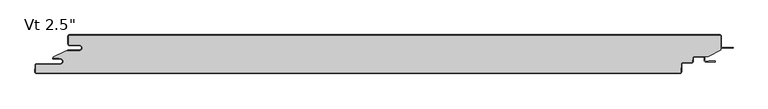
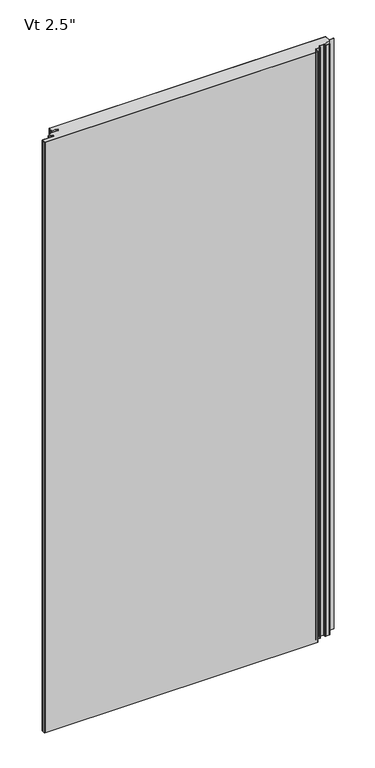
"""IFC4 building model written with IfcOpenShell, lengths in millimetres: plate geometry."""

from ifc_helpers import new_model, si_unit, point, frame, frame_2d, origin, origin_with_axes, place, context, project, spatial, polyline, circle_curve, ellipse_curve, trimmed, segment, composite_curve, outline, extrude, source, transform, mapped, element, save
from ifc_brep_helpers import plane_surface, cylinder_surface, revolved_surface, extruded_surface, advanced_brep


def plate_e125ebaa(model_context):
    return source(origin(), model_context, "Body", "SolidModel", [
        extrude(outline(composite_curve([segment(polyline([(-514.3437502, -16.4625), (-530.2187502, -16.4625)]), True, "CONTINUOUS"), segment(trimmed(circle_curve(frame_2d((-530.2187502, -15.08125)), 1.38125), [point((-530.2187502, -16.4625))], [point((-531.6000002, -15.08125))], False, "CARTESIAN"), True, "CONTINUOUS"), segment(polyline([(-531.6000002, -15.08125), (-531.6000002, -2.38125)]), True, "CONTINUOUS"), segment(trimmed(circle_curve(frame_2d((-530.2187502, -2.38125)), 1.38125), [point((-531.6000002, -2.38125))], [point((-530.2187502, -1.0))], False, "CARTESIAN"), True, "CONTINUOUS"), segment(polyline([(-530.2187502, -1.0), (530.2312498, -1.0)]), True, "CONTINUOUS"), segment(trimmed(circle_curve(frame_2d((530.2312498, -2.38125)), 1.38125), [point((530.2312498, -1.0))], [point((531.6124998, -2.38125))], False, "CARTESIAN"), True, "CONTINUOUS"), segment(polyline([(531.6124998, -2.38125), (531.6124998, -24.9057308), (510.7955432, -35.5125), (488.3540781, -35.5125)]), True, "CONTINUOUS"), segment(trimmed(circle_curve(frame_2d((488.3540781, -38.1)), 2.5875), [point((488.3540781, -35.5125))], [point((485.7701242, -37.9645807))], True, "CARTESIAN"), True, "CONTINUOUS"), segment(polyline([(485.7701242, -37.9645807), (485.4680479, -43.728539)]), True, "CONTINUOUS"), segment(trimmed(circle_curve(frame_2d((484.0886909, -43.65625)), 1.38125), [point((485.4680479, -43.728539))], [point((484.0886909, -45.0375))], False, "CARTESIAN"), True, "CONTINUOUS"), segment(polyline([(484.0886909, -45.0375), (469.9323845, -45.0375)]), True, "CONTINUOUS"), segment(trimmed(circle_curve(frame_2d((469.9323845, -47.625)), 2.5875), [point((469.9323845, -45.0375))], [point((467.3484306, -47.4895807))], True, "CARTESIAN"), True, "CONTINUOUS"), segment(polyline([(467.3484306, -47.4895807), (466.6303676, -61.191039)]), True, "CONTINUOUS"), segment(trimmed(circle_curve(frame_2d((465.2510105, -61.11875)), 1.38125), [point((466.6303676, -61.191039))], [point((465.2510105, -62.5))], False, "CARTESIAN"), True, "CONTINUOUS"), segment(polyline([(465.2510105, -62.5), (-584.0799537, -62.5)]), True, "CONTINUOUS"), segment(trimmed(circle_curve(frame_2d((-584.0799537, -61.11875)), 1.38125), [point((-584.0799537, -62.5))], [point((-585.4593107, -61.046461))], False, "CARTESIAN"), True, "CONTINUOUS"), segment(polyline([(-585.4593107, -61.046461), (-584.8769293, -49.933961)]), True, "CONTINUOUS"), segment(trimmed(circle_curve(frame_2d((-583.4975722, -50.00625)), 1.38125), [point((-584.8769293, -49.933961))], [point((-583.4975722, -48.625))], False, "CARTESIAN"), True, "CONTINUOUS"), segment(polyline([(-583.4975722, -48.625), (-545.3142676, -48.625)]), True, "CONTINUOUS"), segment(trimmed(circle_curve(frame_2d((-545.3142676, -43.65625)), 4.96875), [point((-545.3142676, -48.625))], [point((-545.3142676, -38.6875))], True, "CARTESIAN"), True, "CONTINUOUS"), segment(polyline([(-545.3142676, -38.6875), (-546.9017676, -38.89375), (-546.9017676, -38.1), (-556.4125002, -38.1), (-556.4125002, -36.5326309), (-536.5260924, -26.4), (-514.3437502, -26.4)]), True, "CONTINUOUS"), segment(trimmed(circle_curve(frame_2d((-514.3437502, -21.43125)), 4.96875), [point((-514.3437502, -26.4))], [point((-514.3437502, -16.4625))], True, "CARTESIAN"), True, "CONTINUOUS")], self_intersect=False)), origin_with_axes(), (0.0, 0.0, 1.0), 2400.0),
        extrude(outline(composite_curve([segment(polyline([(-532.6000002, -25.4), (-514.3437502, -25.4)]), True, "CONTINUOUS"), segment(trimmed(circle_curve(frame_2d((-514.3437502, -21.43125)), 3.96875), [point((-514.3437502, -25.4))], [point((-514.3437502, -17.4625))], True, "CARTESIAN"), True, "CONTINUOUS"), segment(polyline([(-514.3437502, -17.4625), (-530.2187502, -17.4625)]), True, "CONTINUOUS"), segment(trimmed(circle_curve(frame_2d((-530.2187502, -15.08125)), 2.38125), [point((-530.2187502, -17.4625))], [point((-532.6000002, -15.08125))], False, "CARTESIAN"), True, "CONTINUOUS"), segment(polyline([(-532.6000002, -15.08125), (-532.6000002, -2.38125)]), True, "CONTINUOUS"), segment(trimmed(circle_curve(frame_2d((-530.2187502, -2.38125)), 2.38125), [point((-532.6000002, -2.38125))], [point((-530.2187502, 0.0))], False, "CARTESIAN"), True, "CONTINUOUS"), segment(polyline([(-530.2187502, 0.0), (530.2312498, 0.0)]), True, "CONTINUOUS"), segment(trimmed(circle_curve(frame_2d((530.2312498, -2.38125)), 2.38125), [point((530.2312498, 0.0))], [point((532.6124998, -2.38125))], False, "CARTESIAN"), True, "CONTINUOUS"), segment(polyline([(532.6124998, -2.38125), (532.6124998, -19.446875)]), True, "CONTINUOUS"), segment(trimmed(circle_curve(frame_2d((534.1999998, -19.446875)), 1.5875), [point((532.6124998, -19.446875))], [point((534.1999998, -21.034375))], True, "CARTESIAN"), True, "CONTINUOUS"), segment(polyline([(534.1999998, -21.034375), (551.6624998, -21.034375), (551.6624998, -22.034375), (534.1999998, -22.034375)]), True, "CONTINUOUS"), segment(trimmed(circle_curve(frame_2d((534.1999998, -19.446875)), 2.5875), [point((534.1999998, -22.034375))], [point((531.6124998, -19.446875))], False, "CARTESIAN"), True, "CONTINUOUS"), segment(polyline([(531.6124998, -19.446875), (531.6124998, -2.38125)]), True, "CONTINUOUS"), segment(trimmed(circle_curve(frame_2d((530.2312498, -2.38125)), 1.38125), [point((531.6124998, -2.38125))], [point((530.2312498, -1.0))], True, "CARTESIAN"), True, "CONTINUOUS"), segment(polyline([(530.2312498, -1.0), (-530.2187502, -1.0)]), True, "CONTINUOUS"), segment(trimmed(circle_curve(frame_2d((-530.2187502, -2.38125)), 1.38125), [point((-530.2187502, -1.0))], [point((-531.6000002, -2.38125))], True, "CARTESIAN"), True, "CONTINUOUS"), segment(polyline([(-531.6000002, -2.38125), (-531.6000002, -15.08125)]), True, "CONTINUOUS"), segment(trimmed(circle_curve(frame_2d((-530.2187502, -15.08125)), 1.38125), [point((-531.6000002, -15.08125))], [point((-530.2187502, -16.4625))], True, "CARTESIAN"), True, "CONTINUOUS"), segment(polyline([(-530.2187502, -16.4625), (-514.3437502, -16.4625)]), True, "CONTINUOUS"), segment(trimmed(circle_curve(frame_2d((-514.3437502, -21.43125)), 4.96875), [point((-514.3437502, -16.4625))], [point((-514.3437502, -26.4))], False, "CARTESIAN"), True, "CONTINUOUS"), segment(polyline([(-514.3437502, -26.4), (-532.6000002, -26.4), (-532.6000002, -25.4)]), True, "CONTINUOUS")], self_intersect=False)), origin_with_axes(), (0.0, 0.0, 1.0), 2400.0),
        advanced_brep(
        [(-556.6252051, -38.1, 2400.0), (-556.6252051, -39.6875, 2400.0), (-545.3142676, -39.6875, 2400.0), (-545.3142676, -47.625, 2400.0), (-583.4975722, -47.625, 2400.0), (-585.8755588, -49.881625, 2400.0), (-586.4579402, -60.994125, 2400.0), (-584.0799537, -63.5, 2400.0), (465.2510105, -63.5, 2400.0), (467.6289971, -61.243375, 2400.0), (468.3470601, -47.5419167, 2400.0), (469.9323845, -46.0375, 2400.0), (484.0886909, -46.0375, 2400.0), (486.4666775, -43.780875, 2400.0), (486.7687537, -38.0169167, 2400.0), (488.3540781, -36.5125, 2400.0), (503.2294824, -36.5125, 2400.0), (504.8169824, -38.1, 2400.0), (504.8169824, -42.2671875, 2400.0), (507.1982324, -44.6484375, 2400.0), (521.689853, -44.6484375, 2400.0), (521.689853, -42.8546875, 2400.0), (511.9607324, -42.8546875, 2400.0), (511.9607324, -43.6484375, 2400.0), (507.1982324, -43.6484375, 2400.0), (505.8169824, -42.2671875, 2400.0), (505.8169824, -38.1, 2400.0), (503.2294824, -35.5125, 2400.0), (488.3540781, -35.5125, 2400.0), (485.7701242, -37.9645807, 2400.0), (485.4680479, -43.728539, 2400.0), (484.0886909, -45.0375, 2400.0), (469.9323845, -45.0375, 2400.0), (467.3484306, -47.4895807, 2400.0), (466.6303676, -61.191039, 2400.0), (465.2510105, -62.5, 2400.0), (-584.0799537, -62.5, 2400.0), (-585.4593107, -61.046461, 2400.0), (-584.8769293, -49.933961, 2400.0), (-583.4975722, -48.625, 2400.0), (-545.3142676, -48.625, 2400.0), (-545.3142676, -38.6875, 2400.0), (-546.9017676, -38.89375, 2400.0), (-546.9017676, -38.1, 2400.0), (-556.6252051, -38.1, 0.0), (-546.9017676, -38.1, 0.0), (-546.9017676, -38.89375, 0.0), (-545.3142676, -38.6875, 0.0), (-545.3142676, -48.625, 0.0), (-583.4975722, -48.625, 0.0), (-584.8769293, -49.933961, 0.0), (-585.4593107, -61.046461, 0.0), (-584.0799537, -62.5, 0.0), (465.2510105, -62.5, 0.0), (466.6303676, -61.191039, 0.0), (467.3484306, -47.4895807, 0.0), (469.9323845, -45.0375, 0.0), (484.0886909, -45.0375, 0.0), (485.4680479, -43.728539, 0.0), (485.7701242, -37.9645807, 0.0), (488.3540781, -35.5125, 0.0), (503.2294824, -35.5125, 0.0), (505.8169824, -38.1, 0.0), (505.8169824, -42.2671875, 0.0), (507.1982324, -43.6484375, 0.0), (511.9607324, -43.6484375, 0.0), (511.9607324, -42.8546875, 0.0), (521.689853, -42.8546875, 0.0), (521.689853, -44.6484375, 0.0), (507.1982324, -44.6484375, 0.0), (504.8169824, -42.2671875, 0.0), (504.8169824, -38.1, 0.0), (503.2294824, -36.5125, 0.0), (488.3540781, -36.5125, 0.0), (486.7687537, -38.0169167, 0.0), (486.4666775, -43.780875, 0.0), (484.0886909, -46.0375, 0.0), (469.9323845, -46.0375, 0.0), (468.3470601, -47.5419167, 0.0), (467.6289971, -61.243375, 0.0), (465.2510105, -63.5, 0.0), (-584.0799537, -63.5, 0.0), (-586.4579402, -60.994125, 0.0), (-585.8755588, -49.881625, 0.0), (-583.4975722, -47.625, 0.0), (-545.3142676, -47.625, 0.0), (-545.3142676, -39.6875, 0.0), (-556.6252051, -39.6875, 0.0)],
        [
            (0, 1, circle_curve(frame((-556.6252051, -38.89375, 2400.0), z_axis=(0.0, 0.0, 1.0), x_axis=(-1.0, 0.0, 0.0)), 0.79375)),
            (1, 2),
            (2, 3, circle_curve(frame((-545.3142676, -43.65625, 2400.0), z_axis=(0.0, 0.0, -1.0), x_axis=(-1.0, 0.0, 0.0)), 3.96875)),
            (3, 4),
            (4, 5, circle_curve(frame((-583.4975722, -50.00625, 2400.0), z_axis=(0.0, 0.0, 1.0), x_axis=(-1.0, 0.0, 0.0)), 2.38125)),
            (5, 6),
            (6, 7, circle_curve(frame((-584.0799537, -61.11875, 2400.0), z_axis=(0.0, 0.0, 1.0), x_axis=(-1.0, 0.0, 0.0)), 2.38125)),
            (7, 8),
            (8, 9, circle_curve(frame((465.2510105, -61.11875, 2400.0), z_axis=(0.0, 0.0, 1.0), x_axis=(-1.0, 0.0, 0.0)), 2.38125)),
            (9, 10),
            (10, 11, circle_curve(frame((469.9323845, -47.625, 2400.0), z_axis=(0.0, 0.0, -1.0), x_axis=(-1.0, 0.0, 0.0)), 1.5875)),
            (11, 12),
            (12, 13, circle_curve(frame((484.0886909, -43.65625, 2400.0), z_axis=(0.0, 0.0, 1.0), x_axis=(-1.0, 0.0, 0.0)), 2.38125)),
            (13, 14),
            (14, 15, circle_curve(frame((488.3540781, -38.1, 2400.0), z_axis=(0.0, 0.0, -1.0), x_axis=(-1.0, 0.0, 0.0)), 1.5875)),
            (15, 16),
            (16, 17, circle_curve(frame((503.2294824, -38.1, 2400.0), z_axis=(0.0, 0.0, -1.0), x_axis=(-1.0, 0.0, 0.0)), 1.5875)),
            (17, 18),
            (18, 19, circle_curve(frame((507.1982324, -42.2671875, 2400.0), z_axis=(0.0, 0.0, 1.0), x_axis=(-1.0, 0.0, 0.0)), 2.38125)),
            (19, 20),
            (20, 21, ellipse_curve(frame((521.689853, -43.7515625, 2400.0), z_axis=(0.0, 0.0, 1.0), x_axis=(0.0, 1.0, 0.0)), 0.896875, 0.7852275)),
            (21, 22),
            (22, 23),
            (23, 24),
            (24, 25, circle_curve(frame((507.1982324, -42.2671875, 2400.0), z_axis=(0.0, 0.0, -1.0), x_axis=(-1.0, 0.0, 0.0)), 1.38125)),
            (25, 26),
            (26, 27, circle_curve(frame((503.2294824, -38.1, 2400.0), z_axis=(0.0, 0.0, 1.0), x_axis=(-1.0, 0.0, 0.0)), 2.5875)),
            (27, 28),
            (28, 29, circle_curve(frame((488.3540781, -38.1, 2400.0), z_axis=(0.0, 0.0, 1.0), x_axis=(-1.0, 0.0, 0.0)), 2.5875)),
            (29, 30),
            (30, 31, circle_curve(frame((484.0886909, -43.65625, 2400.0), z_axis=(0.0, 0.0, -1.0), x_axis=(-1.0, 0.0, 0.0)), 1.38125)),
            (31, 32),
            (32, 33, circle_curve(frame((469.9323845, -47.625, 2400.0), z_axis=(0.0, 0.0, 1.0), x_axis=(-1.0, 0.0, 0.0)), 2.5875)),
            (33, 34),
            (34, 35, circle_curve(frame((465.2510105, -61.11875, 2400.0), z_axis=(0.0, 0.0, -1.0), x_axis=(-1.0, 0.0, 0.0)), 1.38125)),
            (35, 36),
            (36, 37, circle_curve(frame((-584.0799537, -61.11875, 2400.0), z_axis=(0.0, 0.0, -1.0), x_axis=(-1.0, 0.0, 0.0)), 1.38125)),
            (37, 38),
            (38, 39, circle_curve(frame((-583.4975722, -50.00625, 2400.0), z_axis=(0.0, 0.0, -1.0), x_axis=(-1.0, 0.0, 0.0)), 1.38125)),
            (39, 40),
            (40, 41, circle_curve(frame((-545.3142676, -43.65625, 2400.0), z_axis=(0.0, 0.0, 1.0), x_axis=(-1.0, 0.0, 0.0)), 4.96875)),
            (41, 42),
            (42, 43),
            (43, 0),
            (44, 45),
            (45, 46),
            (46, 47),
            (47, 48, circle_curve(frame((-545.3142676, -43.65625, 0.0), z_axis=(0.0, 0.0, -1.0), x_axis=(-1.0, 0.0, 0.0)), 4.96875)),
            (48, 49),
            (49, 50, circle_curve(frame((-583.4975722, -50.00625, 0.0), z_axis=(0.0, 0.0, 1.0), x_axis=(-1.0, 0.0, 0.0)), 1.38125)),
            (50, 51),
            (51, 52, circle_curve(frame((-584.0799537, -61.11875, 0.0), z_axis=(0.0, 0.0, 1.0), x_axis=(-1.0, 0.0, 0.0)), 1.38125)),
            (52, 53),
            (53, 54, circle_curve(frame((465.2510105, -61.11875, 0.0), z_axis=(0.0, 0.0, 1.0), x_axis=(-1.0, 0.0, 0.0)), 1.38125)),
            (54, 55),
            (55, 56, circle_curve(frame((469.9323845, -47.625, 0.0), z_axis=(0.0, 0.0, -1.0), x_axis=(-1.0, 0.0, 0.0)), 2.5875)),
            (56, 57),
            (57, 58, circle_curve(frame((484.0886909, -43.65625, 0.0), z_axis=(0.0, 0.0, 1.0), x_axis=(-1.0, 0.0, 0.0)), 1.38125)),
            (58, 59),
            (59, 60, circle_curve(frame((488.3540781, -38.1, 0.0), z_axis=(0.0, 0.0, -1.0), x_axis=(-1.0, 0.0, 0.0)), 2.5875)),
            (60, 61),
            (61, 62, circle_curve(frame((503.2294824, -38.1, 0.0), z_axis=(0.0, 0.0, -1.0), x_axis=(-1.0, 0.0, 0.0)), 2.5875)),
            (62, 63),
            (63, 64, circle_curve(frame((507.1982324, -42.2671875, 0.0), z_axis=(0.0, 0.0, 1.0), x_axis=(-1.0, 0.0, 0.0)), 1.38125)),
            (64, 65),
            (65, 66),
            (66, 67),
            (67, 68, ellipse_curve(frame((521.689853, -43.7515625, 0.0), z_axis=(0.0, 0.0, -1.0), x_axis=(0.0, 1.0, 0.0)), 0.896875, 0.7852275)),
            (68, 69),
            (69, 70, circle_curve(frame((507.1982324, -42.2671875, 0.0), z_axis=(0.0, 0.0, -1.0), x_axis=(-1.0, 0.0, 0.0)), 2.38125)),
            (70, 71),
            (71, 72, circle_curve(frame((503.2294824, -38.1, 0.0), z_axis=(0.0, 0.0, 1.0), x_axis=(-1.0, 0.0, 0.0)), 1.5875)),
            (72, 73),
            (73, 74, circle_curve(frame((488.3540781, -38.1, 0.0), z_axis=(0.0, 0.0, 1.0), x_axis=(-1.0, 0.0, 0.0)), 1.5875)),
            (74, 75),
            (75, 76, circle_curve(frame((484.0886909, -43.65625, 0.0), z_axis=(0.0, 0.0, -1.0), x_axis=(-1.0, 0.0, 0.0)), 2.38125)),
            (76, 77),
            (77, 78, circle_curve(frame((469.9323845, -47.625, 0.0), z_axis=(0.0, 0.0, 1.0), x_axis=(-1.0, 0.0, 0.0)), 1.5875)),
            (78, 79),
            (79, 80, circle_curve(frame((465.2510105, -61.11875, 0.0), z_axis=(0.0, 0.0, -1.0), x_axis=(-1.0, 0.0, 0.0)), 2.38125)),
            (80, 81),
            (81, 82, circle_curve(frame((-584.0799537, -61.11875, 0.0), z_axis=(0.0, 0.0, -1.0), x_axis=(-1.0, 0.0, 0.0)), 2.38125)),
            (82, 83),
            (83, 84, circle_curve(frame((-583.4975722, -50.00625, 0.0), z_axis=(0.0, 0.0, -1.0), x_axis=(-1.0, 0.0, 0.0)), 2.38125)),
            (84, 85),
            (85, 86, circle_curve(frame((-545.3142676, -43.65625, 0.0), z_axis=(0.0, 0.0, 1.0), x_axis=(-1.0, 0.0, 0.0)), 3.96875)),
            (86, 87),
            (87, 44, circle_curve(frame((-556.6252051, -38.89375, 0.0), z_axis=(0.0, 0.0, -1.0), x_axis=(-1.0, 0.0, 0.0)), 0.79375)),
            (43, 45),
            (44, 0),
            (87, 1),
            (86, 2),
            (85, 3),
            (84, 4),
            (83, 5),
            (82, 6),
            (81, 7),
            (80, 8),
            (79, 9),
            (78, 10),
            (77, 11),
            (76, 12),
            (75, 13),
            (74, 14),
            (73, 15),
            (38, 50),
            (49, 39),
            (37, 51),
            (36, 52),
            (35, 53),
            (34, 54),
            (33, 55),
            (32, 56),
            (31, 57),
            (30, 58),
            (29, 59),
            (28, 60),
            (23, 65),
            (64, 24),
            (63, 25),
            (62, 26),
            (72, 16),
            (71, 17),
            (70, 18),
            (69, 19),
            (68, 20),
            (27, 61),
            (48, 40),
            (47, 41),
            (42, 46),
            (22, 66),
            (21, 67),
        ],
        [
            plane_surface(frame((0.0062498, -63.5, 2400.0), z_axis=(0.0, 0.0, 1.0), x_axis=(0.0, -1.0, 0.0))),
            plane_surface(frame((0.0062498, -63.5, 0.0), z_axis=(0.0, 0.0, -1.0), x_axis=(0.0, -1.0, 0.0))),
            plane_surface(frame((-556.6252051, -38.1, 2400.0), z_axis=(0.0, 1.0, 0.0), x_axis=(0.0, 0.0, -1.0))),
            cylinder_surface(frame((-556.6252051, -38.89375, 2400.0), z_axis=(0.0, 0.0, 1.0), x_axis=(-1.0, 0.0, 0.0)), 0.79375),
            plane_surface(frame((-545.3142676, -39.6875, 2400.0), z_axis=(0.0, -1.0, 0.0), x_axis=(0.0, 0.0, -1.0))),
            revolved_surface(polyline([(-549.2830176, -43.65625, 0.0), (-549.2830176, -43.65625, 2400.0)]), (-545.3142676, -43.65625, 2400.0), (0.0, 0.0, -1.0)),
            plane_surface(frame((-583.4975722, -47.625, 2400.0), z_axis=(0.0, 1.0, 0.0), x_axis=(0.0, 0.0, -1.0))),
            cylinder_surface(frame((-583.4975722, -50.00625, 2400.0), z_axis=(0.0, 0.0, 1.0), x_axis=(-1.0, 0.0, 0.0)), 2.38125),
            plane_surface(frame((-586.4579402, -60.994125, 2400.0), z_axis=(-0.9986295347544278, 0.052335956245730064, 0.0), x_axis=(0.0, 0.0, -1.0))),
            cylinder_surface(frame((-584.0799537, -61.11875, 2400.0), z_axis=(0.0, 0.0, 1.0), x_axis=(-1.0, 0.0, 0.0)), 2.38125),
            plane_surface(frame((465.2510105, -63.5, 2400.0), z_axis=(0.0, -1.0, 0.0), x_axis=(0.0, 0.0, -1.0))),
            cylinder_surface(frame((465.2510105, -61.11875, 2400.0), z_axis=(0.0, 0.0, 1.0), x_axis=(-1.0, 0.0, 0.0)), 2.38125),
            plane_surface(frame((468.3470601, -47.5419167, 2400.0), z_axis=(0.9986295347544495, -0.05233595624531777, 0.0), x_axis=(0.0, 0.0, -1.0))),
            revolved_surface(polyline([(468.34488450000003, -47.625, 0.0), (468.34488450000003, -47.625, 2400.0)]), (469.9323845, -47.625, 2400.0), (0.0, 0.0, -1.0)),
            plane_surface(frame((484.0886909, -46.0375, 2400.0), z_axis=(0.0, -1.0, 0.0), x_axis=(0.0, 0.0, -1.0))),
            cylinder_surface(frame((484.0886909, -43.65625, 2400.0), z_axis=(0.0, 0.0, 1.0), x_axis=(-1.0, 0.0, 0.0)), 2.38125),
            plane_surface(frame((486.7687537, -38.0169167, 2400.0), z_axis=(0.9986295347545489, -0.05233595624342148, 0.0), x_axis=(0.0, 0.0, -1.0))),
            revolved_surface(polyline([(486.7665781, -38.1, 0.0), (486.7665781, -38.1, 2400.0)]), (488.3540781, -38.1, 2400.0), (0.0, 0.0, -1.0)),
            revolved_surface(polyline([(-584.8788222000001, -50.00625, 0.0), (-584.8788222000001, -50.00625, 2400.0)]), (-583.4975722, -50.00625, 2400.0), (0.0, 0.0, -1.0)),
            plane_surface(frame((-584.8769293, -49.933961, 2400.0), z_axis=(0.9986295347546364, -0.05233595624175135, 0.0), x_axis=(0.0, 0.0, -1.0))),
            revolved_surface(polyline([(-585.4612037, -61.11875, 0.0), (-585.4612037, -61.11875, 2400.0)]), (-584.0799537, -61.11875, 2400.0), (0.0, 0.0, -1.0)),
            plane_surface(frame((-584.0799537, -62.5, 2400.0), z_axis=(0.0, 1.0, 0.0), x_axis=(0.0, 0.0, -1.0))),
            revolved_surface(polyline([(463.8697605, -61.11875, 0.0), (463.8697605, -61.11875, 2400.0)]), (465.2510105, -61.11875, 2400.0), (0.0, 0.0, -1.0)),
            plane_surface(frame((466.6303676, -61.191039, 2400.0), z_axis=(-0.9986295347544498, 0.05233595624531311, 0.0), x_axis=(0.0, 0.0, -1.0))),
            cylinder_surface(frame((469.9323845, -47.625, 2400.0), z_axis=(0.0, 0.0, 1.0), x_axis=(-1.0, 0.0, 0.0)), 2.5875),
            plane_surface(frame((469.9323845, -45.0375, 2400.0), z_axis=(0.0, 1.0, 0.0), x_axis=(0.0, 0.0, -1.0))),
            revolved_surface(polyline([(482.7074409, -43.65625, 0.0), (482.7074409, -43.65625, 2400.0)]), (484.0886909, -43.65625, 2400.0), (0.0, 0.0, -1.0)),
            plane_surface(frame((485.4680479, -43.728539, 2400.0), z_axis=(-0.9986295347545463, 0.05233595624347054, 0.0), x_axis=(0.0, 0.0, -1.0))),
            cylinder_surface(frame((488.3540781, -38.1, 2400.0), z_axis=(0.0, 0.0, 1.0), x_axis=(-1.0, 0.0, 0.0)), 2.5875),
            plane_surface(frame((507.1982324, -43.6484375, 2400.0), z_axis=(0.0, 1.0, 0.0), x_axis=(0.0, 0.0, -1.0))),
            revolved_surface(polyline([(505.8169824, -42.2671875, 0.0), (505.8169824, -42.2671875, 2400.0)]), (507.1982324, -42.2671875, 2400.0), (0.0, 0.0, -1.0)),
            plane_surface(frame((505.8169824, -38.1, 2400.0), z_axis=(1.0, 0.0, 0.0), x_axis=(0.0, 0.0, -1.0))),
            plane_surface(frame((503.2294824, -36.5125, 2400.0), z_axis=(0.0, -1.0, 0.0), x_axis=(0.0, 0.0, -1.0))),
            revolved_surface(polyline([(501.6419824, -38.1, 0.0), (501.6419824, -38.1, 2400.0)]), (503.2294824, -38.1, 2400.0), (0.0, 0.0, -1.0)),
            plane_surface(frame((504.8169824, -42.2671875, 2400.0), z_axis=(-1.0, 0.0, 0.0), x_axis=(0.0, 0.0, -1.0))),
            cylinder_surface(frame((507.1982324, -42.2671875, 2400.0), z_axis=(0.0, 0.0, 1.0), x_axis=(-1.0, 0.0, 0.0)), 2.38125),
            plane_surface(frame((521.689853, -44.6484375, 2400.0), z_axis=(0.0, -1.0, 0.0), x_axis=(0.0, 0.0, -1.0))),
            plane_surface(frame((488.3540781, -35.5125, 2400.0), z_axis=(0.0, 1.0, 0.0), x_axis=(0.0, 0.0, -1.0))),
            cylinder_surface(frame((503.2294824, -38.1, 2400.0), z_axis=(0.0, 0.0, 1.0), x_axis=(-1.0, 0.0, 0.0)), 2.5875),
            plane_surface(frame((-545.3142676, -48.625, 2400.0), z_axis=(0.0, -1.0, 0.0), x_axis=(0.0, 0.0, -1.0))),
            cylinder_surface(frame((-545.3142676, -43.65625, 2400.0), z_axis=(0.0, 0.0, 1.0), x_axis=(-1.0, 0.0, 0.0)), 4.96875),
            plane_surface(frame((-546.9017676, -38.1, 2400.0), z_axis=(1.0, 0.0, 0.0), x_axis=(0.0, 0.0, -1.0))),
            plane_surface(frame((-546.9017676, -38.89375, 2400.0), z_axis=(-0.128838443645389, 0.9916655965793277, 0.0), x_axis=(0.0, 0.0, -1.0))),
            plane_surface(frame((511.9607324, -43.6484375, 2400.0), z_axis=(-1.0, 0.0, 0.0), x_axis=(0.0, 0.0, -1.0))),
            plane_surface(frame((511.9607324, -42.8546875, 2400.0), z_axis=(0.0, 1.0, 0.0), x_axis=(0.0, 0.0, -1.0))),
            extruded_surface(trimmed(ellipse_curve(frame((521.689853, -43.7515625, 2400.0), z_axis=(0.0, 0.0, -1.0), x_axis=(0.0, 1.0, 0.0)), 0.896875, 0.7852275), [point((521.689853, -42.8546875, 2400.0))], [point((521.689853, -44.6484375, 2400.0))], True, "CARTESIAN"), (0.0, 0.0, -2400.0), 2400.0),
        ],
        [
            (0, [[1, 2, 3, 4, 5, 6, 7, 8, 9, 10, 11, 12, 13, 14, 15, 16, 17, 18, 19, 20, 21, 22, 23, 24, 25, 26, 27, 28, 29, 30, 31, 32, 33, 34, 35, 36, 37, 38, 39, 40, 41, 42, 43, 44]]),
            (1, [[45, 46, 47, 48, 49, 50, 51, 52, 53, 54, 55, 56, 57, 58, 59, 60, 61, 62, 63, 64, 65, 66, 67, 68, 69, 70, 71, 72, 73, 74, 75, 76, 77, 78, 79, 80, 81, 82, 83, 84, 85, 86, 87, 88]]),
            (2, [[89, -45, 90, -44]]),
            (3, [[-90, -88, 91, -1]]),
            (4, [[-91, -87, 92, -2]]),
            (5, [[-92, -86, 93, -3]]),
            (6, [[-93, -85, 94, -4]]),
            (7, [[-94, -84, 95, -5]]),
            (8, [[-95, -83, 96, -6]]),
            (9, [[-96, -82, 97, -7]]),
            (10, [[-97, -81, 98, -8]]),
            (11, [[-98, -80, 99, -9]]),
            (12, [[-99, -79, 100, -10]]),
            (13, [[-100, -78, 101, -11]]),
            (14, [[-101, -77, 102, -12]]),
            (15, [[-102, -76, 103, -13]]),
            (16, [[-103, -75, 104, -14]]),
            (17, [[-104, -74, 105, -15]]),
            (18, [[106, -50, 107, -39]]),
            (19, [[108, -51, -106, -38]]),
            (20, [[109, -52, -108, -37]]),
            (21, [[110, -53, -109, -36]]),
            (22, [[111, -54, -110, -35]]),
            (23, [[112, -55, -111, -34]]),
            (24, [[113, -56, -112, -33]]),
            (25, [[114, -57, -113, -32]]),
            (26, [[115, -58, -114, -31]]),
            (27, [[116, -59, -115, -30]]),
            (28, [[117, -60, -116, -29]]),
            (29, [[118, -65, 119, -24]]),
            (30, [[-119, -64, 120, -25]]),
            (31, [[-120, -63, 121, -26]]),
            (32, [[-105, -73, 122, -16]]),
            (33, [[-122, -72, 123, -17]]),
            (34, [[-123, -71, 124, -18]]),
            (35, [[-124, -70, 125, -19]]),
            (36, [[-125, -69, 126, -20]]),
            (37, [[127, -61, -117, -28]]),
            (38, [[-121, -62, -127, -27]]),
            (39, [[-107, -49, 128, -40]]),
            (40, [[-128, -48, 129, -41]]),
            (41, [[130, -46, -89, -43]]),
            (42, [[-129, -47, -130, -42]]),
            (43, [[131, -66, -118, -23]]),
            (44, [[132, -67, -131, -22]]),
            (45, [[-126, -68, -132, -21]]),
        ],
    ),
    ])


if __name__ == "__main__":
    model = new_model("IFC4")
    model_context = context("Model", 3, world=origin())
    ifc_project = project(units=[si_unit("LENGTHUNIT", "METRE", prefix="MILLI")], contexts=[model_context])
    site = spatial("IfcSite", under=ifc_project)
    building = spatial("IfcBuilding", under=site)
    placement = place(None, origin())
    plate_shape = plate_e125ebaa(model_context)
    element("IfcPlate", 1, ObjectType="KIP-42-DWHR-R19-CP-Vt-F : Vt 2.5\"", at=placement, inside=building, context=model_context, shape_type="MappedRepresentation", body=[
        mapped(plate_shape, transform((0.0, 0.0, 0.0), x_axis=(1.0, 0.0, 0.0), y_axis=(0.0, 1.0, 0.0), z_axis=(0.0, 0.0, 1.0))),
    ])
    save(model, "model.ifc")
